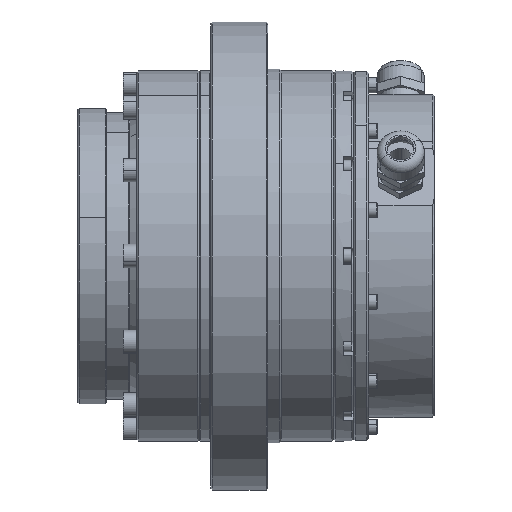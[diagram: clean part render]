
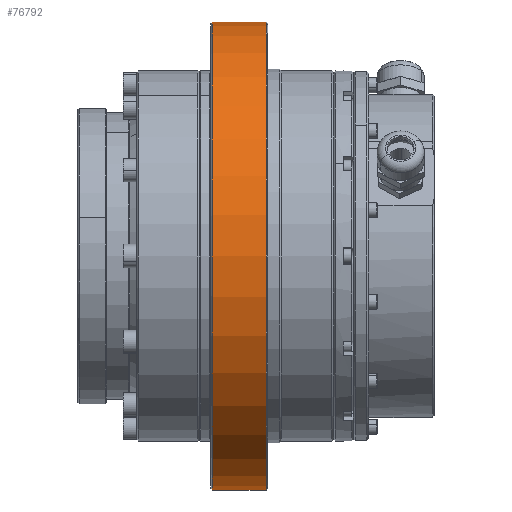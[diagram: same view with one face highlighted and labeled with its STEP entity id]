
A CAD part, front view. The second image highlights one B-rep face of the part: STEP entity #76792.
In plain terms, the highlighted cylindrical face has radius 69.5 mm (diameter 139 mm), a partial arc.
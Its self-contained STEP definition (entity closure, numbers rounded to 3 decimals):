
#803 = CARTESIAN_POINT ( 'NONE',  ( 18.5, 0., -69.5 ) ) ;
#1800 = EDGE_CURVE ( 'NONE', #12994, #38676, #10063, .T. ) ;
#4173 = CARTESIAN_POINT ( 'NONE',  ( 19., 0., -69.5 ) ) ;
#6527 = AXIS2_PLACEMENT_3D ( 'NONE', #68074, #27180, #10055 ) ;
#6982 = AXIS2_PLACEMENT_3D ( 'NONE', #22575, #76310, #17149 ) ;
#8009 = EDGE_CURVE ( 'NONE', #28815, #23406, #35553, .T. ) ;
#10055 = DIRECTION ( 'NONE',  ( 0., 0., 1. ) ) ;
#10063 = CIRCLE ( 'NONE', #6527, 69.5 ) ;
#12624 = DIRECTION ( 'NONE',  ( -1., 0., 0. ) ) ;
#12994 = VERTEX_POINT ( 'NONE', #803 ) ;
#13026 = DIRECTION ( 'NONE',  ( 0., 0., 1. ) ) ;
#16939 = EDGE_CURVE ( 'NONE', #12994, #23406, #69205, .T. ) ;
#17149 = DIRECTION ( 'NONE',  ( 0., 0., 1. ) ) ;
#21676 = ORIENTED_EDGE ( 'NONE', *, *, #60366, .T. ) ;
#22575 = CARTESIAN_POINT ( 'NONE',  ( 2.5, 0., 0. ) ) ;
#23406 = VERTEX_POINT ( 'NONE', #32236 ) ;
#27180 = DIRECTION ( 'NONE',  ( -1., 0., 0. ) ) ;
#28815 = VERTEX_POINT ( 'NONE', #46041 ) ;
#32236 = CARTESIAN_POINT ( 'NONE',  ( 2.5, 0., -69.5 ) ) ;
#35318 = CYLINDRICAL_SURFACE ( 'NONE', #62674, 69.5 ) ;
#35553 = CIRCLE ( 'NONE', #6982, 69.5 ) ;
#37003 = DIRECTION ( 'NONE',  ( -1., 0., 0. ) ) ;
#38676 = VERTEX_POINT ( 'NONE', #67571 ) ;
#42081 = LINE ( 'NONE', #42456, #69181 ) ;
#42237 = VECTOR ( 'NONE', #12624, 1000. ) ;
#42456 = CARTESIAN_POINT ( 'NONE',  ( 19., 0., 69.5 ) ) ;
#43014 = ORIENTED_EDGE ( 'NONE', *, *, #16939, .F. ) ;
#46041 = CARTESIAN_POINT ( 'NONE',  ( 2.5, 0., 69.5 ) ) ;
#59093 = CARTESIAN_POINT ( 'NONE',  ( 19., 0., 0. ) ) ;
#60366 = EDGE_CURVE ( 'NONE', #38676, #28815, #42081, .T. ) ;
#62674 = AXIS2_PLACEMENT_3D ( 'NONE', #59093, #71149, #13026 ) ;
#64920 = FACE_OUTER_BOUND ( 'NONE', #68387, .T. ) ;
#67571 = CARTESIAN_POINT ( 'NONE',  ( 18.5, 0., 69.5 ) ) ;
#68074 = CARTESIAN_POINT ( 'NONE',  ( 18.5, 0., 0. ) ) ;
#68387 = EDGE_LOOP ( 'NONE', ( #43014, #72759, #21676, #70741 ) ) ;
#69181 = VECTOR ( 'NONE', #37003, 1000. ) ;
#69205 = LINE ( 'NONE', #4173, #42237 ) ;
#70741 = ORIENTED_EDGE ( 'NONE', *, *, #8009, .T. ) ;
#71149 = DIRECTION ( 'NONE',  ( -1., 0., 0. ) ) ;
#72759 = ORIENTED_EDGE ( 'NONE', *, *, #1800, .T. ) ;
#76310 = DIRECTION ( 'NONE',  ( 1., 0., 0. ) ) ;
#76792 = ADVANCED_FACE ( 'NONE', ( #64920 ), #35318, .T. ) ;
